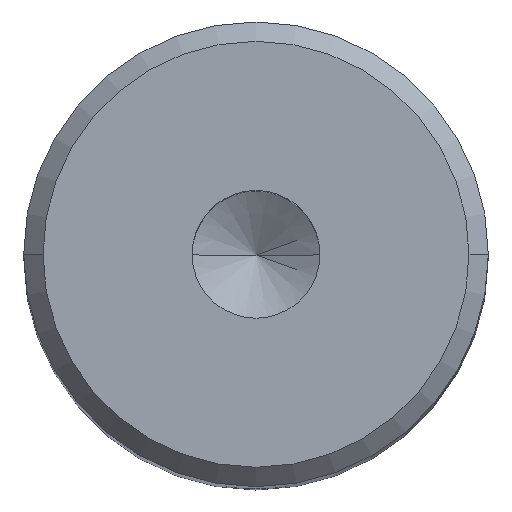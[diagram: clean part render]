
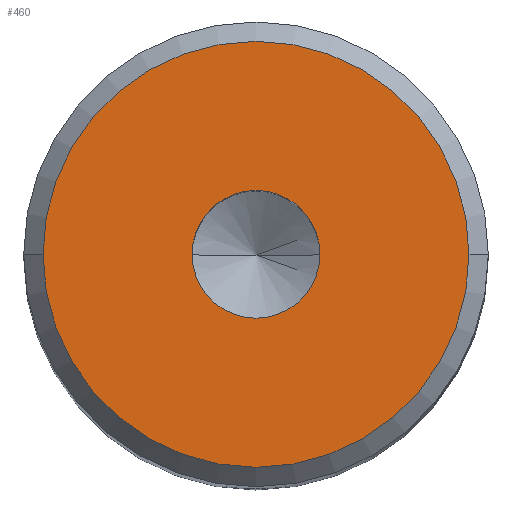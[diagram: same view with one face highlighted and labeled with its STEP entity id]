
A CAD part, top view. The second image highlights one B-rep face of the part: STEP entity #460.
In plain terms, the highlighted planar face has unit normal (0, 0, 1).
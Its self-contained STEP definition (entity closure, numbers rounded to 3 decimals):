
#22 = AXIS2_PLACEMENT_3D ( 'NONE', #269, #224, #456 ) ;
#45 = AXIS2_PLACEMENT_3D ( 'NONE', #415, #135, #557 ) ;
#47 = CARTESIAN_POINT ( 'NONE',  ( 0., 0., 50. ) ) ;
#80 = AXIS2_PLACEMENT_3D ( 'NONE', #47, #339, #291 ) ;
#85 = EDGE_LOOP ( 'NONE', ( #316, #394 ) ) ;
#93 = VERTEX_POINT ( 'NONE', #357 ) ;
#95 = CARTESIAN_POINT ( 'NONE',  ( -1.65, 0., 50. ) ) ;
#97 = CIRCLE ( 'NONE', #543, 5.5 ) ;
#98 = EDGE_LOOP ( 'NONE', ( #177, #544 ) ) ;
#135 = DIRECTION ( 'NONE',  ( 0., 0., 1. ) ) ;
#139 = AXIS2_PLACEMENT_3D ( 'NONE', #381, #384, #434 ) ;
#157 = CIRCLE ( 'NONE', #22, 1.65 ) ;
#177 = ORIENTED_EDGE ( 'NONE', *, *, #245, .F. ) ;
#187 = EDGE_CURVE ( 'NONE', #537, #583, #97, .T. ) ;
#224 = DIRECTION ( 'NONE',  ( 0., 0., 1. ) ) ;
#244 = CARTESIAN_POINT ( 'NONE',  ( -5.5, 0., 50. ) ) ;
#245 = EDGE_CURVE ( 'NONE', #93, #461, #157, .T. ) ;
#264 = CARTESIAN_POINT ( 'NONE',  ( 0., 0., 50. ) ) ;
#269 = CARTESIAN_POINT ( 'NONE',  ( 0., 0., 50. ) ) ;
#277 = EDGE_CURVE ( 'NONE', #583, #537, #338, .T. ) ;
#291 = DIRECTION ( 'NONE',  ( 1., 0., 0. ) ) ;
#316 = ORIENTED_EDGE ( 'NONE', *, *, #187, .T. ) ;
#338 = CIRCLE ( 'NONE', #45, 5.5 ) ;
#339 = DIRECTION ( 'NONE',  ( 0., 0., 1. ) ) ;
#357 = CARTESIAN_POINT ( 'NONE',  ( 1.65, 0., 50. ) ) ;
#381 = CARTESIAN_POINT ( 'NONE',  ( 0., 0., 50. ) ) ;
#384 = DIRECTION ( 'NONE',  ( 0., 0., 1. ) ) ;
#389 = FACE_OUTER_BOUND ( 'NONE', #85, .T. ) ;
#394 = ORIENTED_EDGE ( 'NONE', *, *, #277, .T. ) ;
#415 = CARTESIAN_POINT ( 'NONE',  ( 0., 0., 50. ) ) ;
#425 = PLANE ( 'NONE',  #80 ) ;
#434 = DIRECTION ( 'NONE',  ( 1., 0., 0. ) ) ;
#435 = CIRCLE ( 'NONE', #139, 1.65 ) ;
#445 = CARTESIAN_POINT ( 'NONE',  ( 5.5, 0., 50. ) ) ;
#454 = DIRECTION ( 'NONE',  ( 0., 0., 1. ) ) ;
#456 = DIRECTION ( 'NONE',  ( 1., 0., 0. ) ) ;
#460 = ADVANCED_FACE ( 'NONE', ( #512, #389 ), #425, .T. ) ;
#461 = VERTEX_POINT ( 'NONE', #95 ) ;
#506 = EDGE_CURVE ( 'NONE', #461, #93, #435, .T. ) ;
#512 = FACE_BOUND ( 'NONE', #98, .T. ) ;
#537 = VERTEX_POINT ( 'NONE', #244 ) ;
#540 = DIRECTION ( 'NONE',  ( 1., 0., 0. ) ) ;
#543 = AXIS2_PLACEMENT_3D ( 'NONE', #264, #454, #540 ) ;
#544 = ORIENTED_EDGE ( 'NONE', *, *, #506, .F. ) ;
#557 = DIRECTION ( 'NONE',  ( 1., 0., 0. ) ) ;
#583 = VERTEX_POINT ( 'NONE', #445 ) ;
